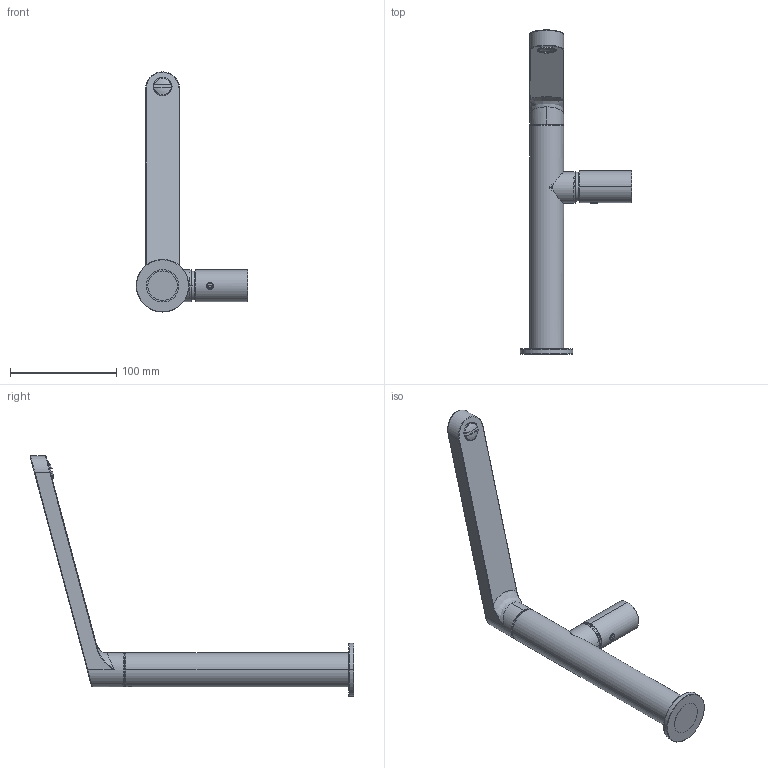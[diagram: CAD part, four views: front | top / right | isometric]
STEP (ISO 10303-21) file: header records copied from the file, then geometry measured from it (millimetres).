
FILE_DESCRIPTION((''),'2;1');
FILE_NAME('F4161L_FILE_3D','2013-10-17T',('ivanv'),(''),'PRO/ENGINEER BY PARAMETRIC TECHNOLOGY CORPORATION, 2012130','PRO/ENGINEER BY PARAMETRIC TECHNOLOGY CORPORATION, 2012130','');
FILE_SCHEMA(('CONFIG_CONTROL_DESIGN'));
Length unit declared in the file: millimetre
Products named in the file (1): F4161L_FILE_3D
Bounding box: 104.75 x 304.4 x 225.74 mm (x, y, z)
Volume: 170050.5 mm3; surface area: 99814.2 mm2
Topology: 2 solids, 2 shells, 339 faces, 842 edges, 500 vertices
Faces by surface type: cylinder 110, cone 81, plane 75, bspline 35, torus 32, sphere 6
Entity records: 15138 total; most frequent: CARTESIAN_POINT 7367, ORIENTED_EDGE 1640, DIRECTION 1609, EDGE_CURVE 820, AXIS2_PLACEMENT_3D 670, VERTEX_POINT 500, EDGE_LOOP 374, CIRCLE 366
